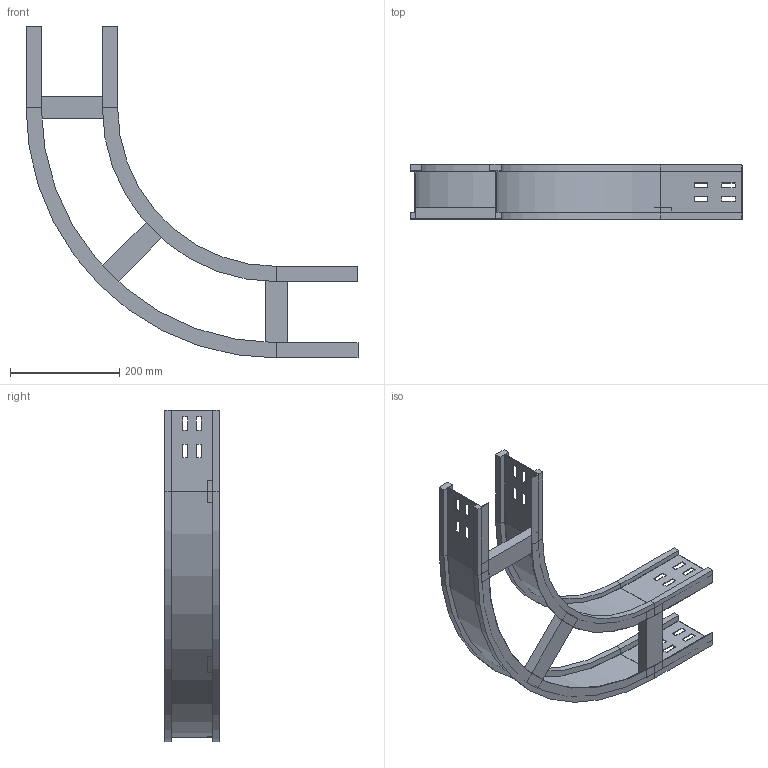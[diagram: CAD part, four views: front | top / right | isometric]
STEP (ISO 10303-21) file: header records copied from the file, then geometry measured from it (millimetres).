
FILE_DESCRIPTION (( 'STEP AP214' ), '1' );
FILE_NAME ('10S3D150.step', '2025-02-21T16:08:45', ( '' ), ( '' ), 'SwSTEP 2.0', 'SolidWorks 2023', '' );
FILE_SCHEMA (( 'AUTOMOTIVE_DESIGN' ));
Length unit declared in the file: millimetre
Products named in the file (4): 10S3D150; TRAVERSINO_150; LONGH.INTERNO 90°_H100_R300; LONGH.ESTERNO 90°_H100_R300+150
Assembly tree (5 placements, depth 2):
  10S3D150
    LONGH.INTERNO 90°_H100_R300
    LONGH.ESTERNO 90°_H100_R300+150
    TRAVERSINO_150  x3
Bounding box: 609 x 100 x 609 mm (x, y, z)
Volume: 1294646.1 mm3; surface area: 582868.9 mm2
Topology: 5 solids, 5 shells, 158 faces, 396 edges, 248 vertices
Faces by surface type: plane 146, cylinder 12
Entity records: 4477 total; most frequent: CARTESIAN_POINT 758, ORIENTED_EDGE 744, DIRECTION 704, EDGE_CURVE 372, VECTOR 348, LINE 348, VERTEX_POINT 232, EDGE_LOOP 178
